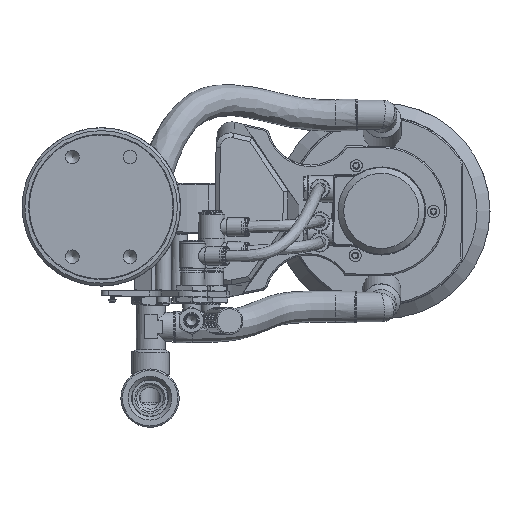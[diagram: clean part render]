
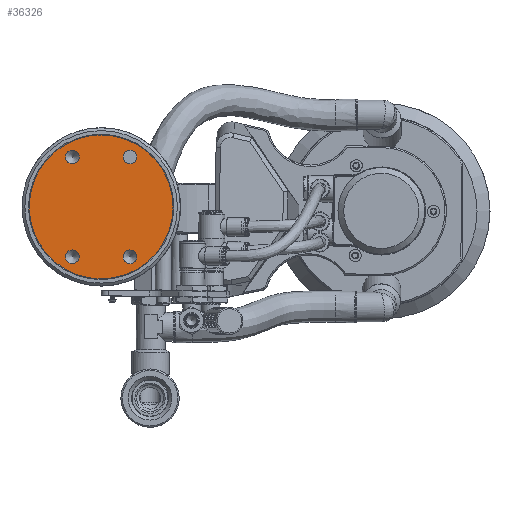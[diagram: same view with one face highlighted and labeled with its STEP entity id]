
A CAD part, top view. The second image highlights one B-rep face of the part: STEP entity #36326.
In plain terms, the highlighted planar face has unit normal (-0.007, 0, 1).
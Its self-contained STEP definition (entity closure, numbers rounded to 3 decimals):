
#1732=CIRCLE('',#38459,50.);
#1735=CIRCLE('',#38464,4.75);
#1736=CIRCLE('',#38466,4.75);
#1737=CIRCLE('',#38468,4.75);
#1738=CIRCLE('',#38469,4.75);
#4762=FACE_BOUND('',#8333,.T.);
#4763=FACE_BOUND('',#8334,.T.);
#4764=FACE_BOUND('',#8335,.T.);
#4765=FACE_BOUND('',#8336,.T.);
#5262=PLANE('',#38467);
#6338=FACE_OUTER_BOUND('',#8332,.T.);
#8332=EDGE_LOOP('',(#28764));
#8333=EDGE_LOOP('',(#28765));
#8334=EDGE_LOOP('',(#28766));
#8335=EDGE_LOOP('',(#28767));
#8336=EDGE_LOOP('',(#28768));
#17136=VERTEX_POINT('',#60155);
#17139=VERTEX_POINT('',#60165);
#17141=VERTEX_POINT('',#60170);
#17143=VERTEX_POINT('',#60175);
#17144=VERTEX_POINT('',#60177);
#21579=EDGE_CURVE('',#17136,#17136,#1732,.T.);
#21584=EDGE_CURVE('',#17139,#17139,#1735,.T.);
#21586=EDGE_CURVE('',#17141,#17141,#1736,.T.);
#21588=EDGE_CURVE('',#17143,#17143,#1737,.T.);
#21589=EDGE_CURVE('',#17144,#17144,#1738,.T.);
#28764=ORIENTED_EDGE('',*,*,#21579,.F.);
#28765=ORIENTED_EDGE('',*,*,#21588,.F.);
#28766=ORIENTED_EDGE('',*,*,#21584,.F.);
#28767=ORIENTED_EDGE('',*,*,#21589,.F.);
#28768=ORIENTED_EDGE('',*,*,#21586,.F.);
#36326=ADVANCED_FACE('',(#6338,#4762,#4763,#4764,#4765),#5262,.T.);
#38459=AXIS2_PLACEMENT_3D('',#60156,#43503,#43504);
#38464=AXIS2_PLACEMENT_3D('',#60166,#43515,#43516);
#38466=AXIS2_PLACEMENT_3D('',#60171,#43520,#43521);
#38467=AXIS2_PLACEMENT_3D('',#60174,#43523,#43524);
#38468=AXIS2_PLACEMENT_3D('',#60176,#43525,#43526);
#38469=AXIS2_PLACEMENT_3D('',#60178,#43527,#43528);
#43503=DIRECTION('center_axis',(0.007,0.,
-1.));
#43504=DIRECTION('ref_axis',(-1.,0.,-0.007));
#43515=DIRECTION('center_axis',(-0.007,0.,
1.));
#43516=DIRECTION('ref_axis',(-1.,0.,-0.007));
#43520=DIRECTION('center_axis',(-0.007,0.,
1.));
#43521=DIRECTION('ref_axis',(-1.,0.,-0.007));
#43523=DIRECTION('center_axis',(-0.007,0.,
1.));
#43524=DIRECTION('ref_axis',(1.,0.,0.007));
#43525=DIRECTION('center_axis',(-0.007,0.,
1.));
#43526=DIRECTION('ref_axis',(-1.,0.,-0.007));
#43527=DIRECTION('center_axis',(-0.007,0.,
1.));
#43528=DIRECTION('ref_axis',(-1.,0.,-0.007));
#60155=CARTESIAN_POINT('',(-40.695,64.751,184.97));
#60156=CARTESIAN_POINT('Origin',(-90.694,64.751,184.637));
#60165=CARTESIAN_POINT('',(-105.944,30.11,184.538));
#60166=CARTESIAN_POINT('Origin',(-110.694,30.11,184.506));
#60170=CARTESIAN_POINT('',(-65.945,99.392,184.799));
#60171=CARTESIAN_POINT('Origin',(-70.694,99.392,184.767));
#60174=CARTESIAN_POINT('Origin',(-90.694,64.751,184.637));
#60175=CARTESIAN_POINT('',(-65.945,30.11,184.804));
#60176=CARTESIAN_POINT('Origin',(-70.694,30.11,184.773));
#60177=CARTESIAN_POINT('',(-105.944,99.392,184.533));
#60178=CARTESIAN_POINT('Origin',(-110.694,99.392,184.501));
